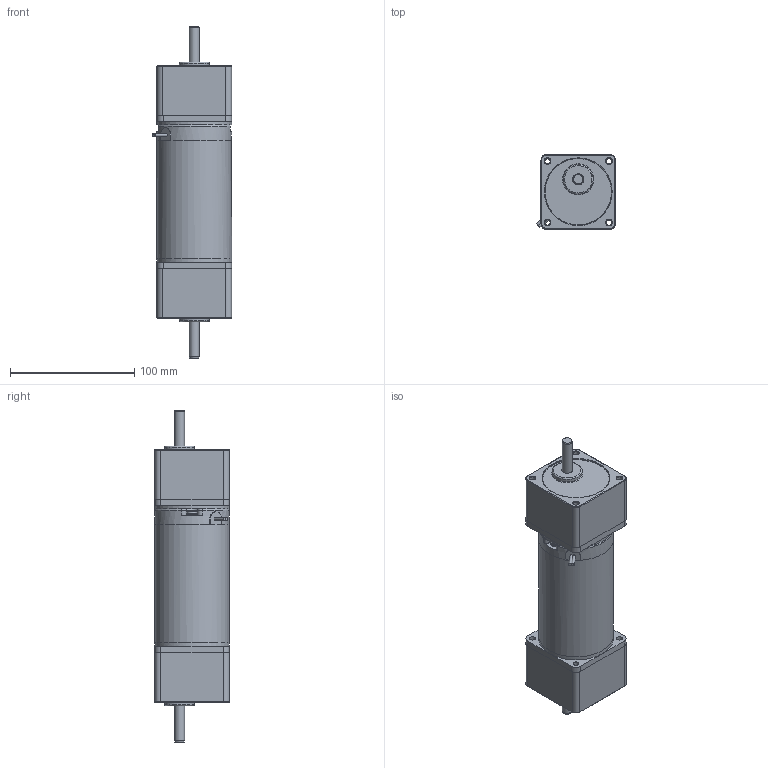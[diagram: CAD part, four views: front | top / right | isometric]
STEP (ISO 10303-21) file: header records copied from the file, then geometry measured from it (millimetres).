
FILE_DESCRIPTION((''),'2;1');
FILE_NAME('D:\yang\Yang cw\SPG 업무\2. DC MOTOR\7. DC MOTOR 브로슈어\DUAL GEAR-HEAD DC MOTOR\3D\STEP\S6D35-24A(OA80)- STRAIGHT.stp','2015-03-09T18:52:16',('ycw1227'),(''),'Autodesk Inventor 2013','Autodesk Inventor 2013','');
FILE_SCHEMA(('AUTOMOTIVE_DESIGN { 1 0 10303 214 1 1 1 1 }'));
Length unit declared in the file: millimetre
Products named in the file (1): 부품11
Bounding box: 63.59 x 60 x 267 mm (x, y, z)
Volume: 614950.8 mm3; surface area: 71176.3 mm2
Topology: 1 solids, 3 shells, 266 faces, 618 edges, 377 vertices
Faces by surface type: plane 106, cylinder 82, cone 42, torus 30, bspline 4, sphere 2
Full cylindrical faces by diameter (mm): 2.2 x2, 3.621 x2, 4 x2, 4.5 x18, 6 x2, 8 x2, 9 x4, 24 x2, 53.997 x2, 54 x2, 60 x4
Entity records: 8333 total; most frequent: CARTESIAN_POINT 2176, DIRECTION 1284, ORIENTED_EDGE 1098, AXIS2_PLACEMENT_3D 562, EDGE_CURVE 549, VERTEX_POINT 374, EDGE_LOOP 372, CIRCLE 275
